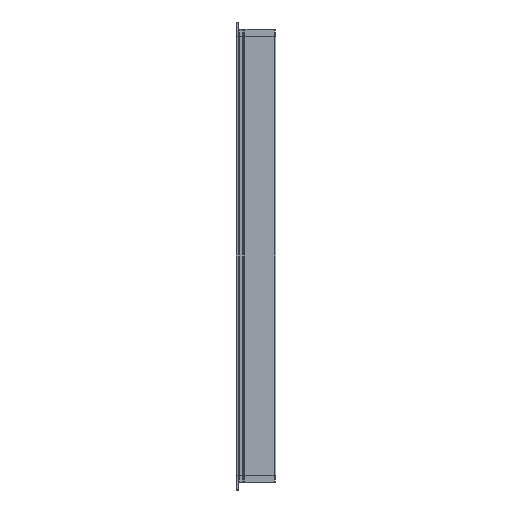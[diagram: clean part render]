
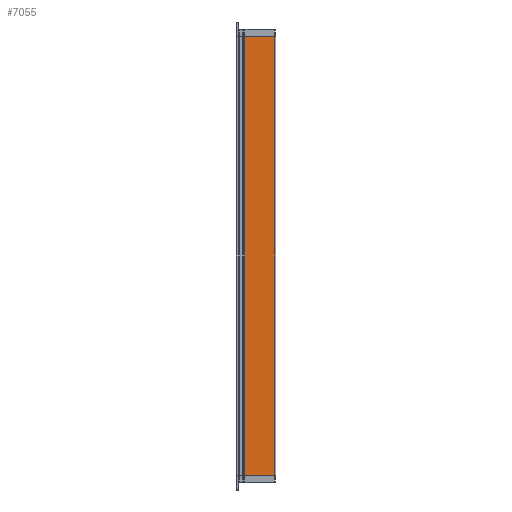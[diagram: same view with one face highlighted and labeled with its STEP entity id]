
A CAD part, left-side view. The second image highlights one B-rep face of the part: STEP entity #7055.
In plain terms, the highlighted planar face has unit normal (-1, 0, 0).
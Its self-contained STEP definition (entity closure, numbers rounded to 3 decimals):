
#141 = VERTEX_POINT ( 'NONE', #7508 ) ;
#322 = CARTESIAN_POINT ( 'NONE',  ( 2.7, -1.5, -300. ) ) ;
#333 = LINE ( 'NONE', #3867, #351 ) ;
#351 = VECTOR ( 'NONE', #3819, 1000. ) ;
#398 = DIRECTION ( 'NONE',  ( -1., 0., 0. ) ) ;
#421 = DIRECTION ( 'NONE',  ( 0., -1., 0. ) ) ;
#510 = ORIENTED_EDGE ( 'NONE', *, *, #6690, .F. ) ;
#668 = PLANE ( 'NONE',  #4870 ) ;
#779 = ORIENTED_EDGE ( 'NONE', *, *, #6578, .T. ) ;
#1096 = DIRECTION ( 'NONE',  ( 0., 0., 1. ) ) ;
#1103 = ORIENTED_EDGE ( 'NONE', *, *, #6884, .F. ) ;
#1277 = CARTESIAN_POINT ( 'NONE',  ( 2.7, -1.5, -300. ) ) ;
#1294 = DIRECTION ( 'NONE',  ( 0., -1., 0. ) ) ;
#1316 = CARTESIAN_POINT ( 'NONE',  ( 2.7, -1.5, 0. ) ) ;
#1853 = CARTESIAN_POINT ( 'NONE',  ( 2.7, -1.5, -300. ) ) ;
#2665 = DIRECTION ( 'NONE',  ( 0., 0., 1. ) ) ;
#2673 = CARTESIAN_POINT ( 'NONE',  ( 2.7, -23.55, -300. ) ) ;
#2740 = CARTESIAN_POINT ( 'NONE',  ( 2.7, -23.55, -300. ) ) ;
#3261 = VERTEX_POINT ( 'NONE', #1853 ) ;
#3416 = LINE ( 'NONE', #2673, #6239 ) ;
#3686 = LINE ( 'NONE', #1277, #4476 ) ;
#3819 = DIRECTION ( 'NONE',  ( 0., -1., 0. ) ) ;
#3867 = CARTESIAN_POINT ( 'NONE',  ( 2.7, -1.5, -300. ) ) ;
#4476 = VECTOR ( 'NONE', #1096, 1000. ) ;
#4870 = AXIS2_PLACEMENT_3D ( 'NONE', #322, #398, #421 ) ;
#5308 = FACE_OUTER_BOUND ( 'NONE', #5384, .T. ) ;
#5384 = EDGE_LOOP ( 'NONE', ( #7150, #779, #510, #1103 ) ) ;
#5994 = CARTESIAN_POINT ( 'NONE',  ( 2.7, -23.55, 0. ) ) ;
#6112 = LINE ( 'NONE', #1316, #6317 ) ;
#6239 = VECTOR ( 'NONE', #2665, 1000. ) ;
#6317 = VECTOR ( 'NONE', #1294, 1000. ) ;
#6486 = EDGE_CURVE ( 'NONE', #3261, #6591, #333, .T. ) ;
#6578 = EDGE_CURVE ( 'NONE', #6591, #7726, #3416, .T. ) ;
#6591 = VERTEX_POINT ( 'NONE', #2740 ) ;
#6690 = EDGE_CURVE ( 'NONE', #141, #7726, #6112, .T. ) ;
#6884 = EDGE_CURVE ( 'NONE', #3261, #141, #3686, .T. ) ;
#7055 = ADVANCED_FACE ( 'NONE', ( #5308 ), #668, .T. ) ;
#7150 = ORIENTED_EDGE ( 'NONE', *, *, #6486, .T. ) ;
#7508 = CARTESIAN_POINT ( 'NONE',  ( 2.7, -1.5, 0. ) ) ;
#7726 = VERTEX_POINT ( 'NONE', #5994 ) ;
